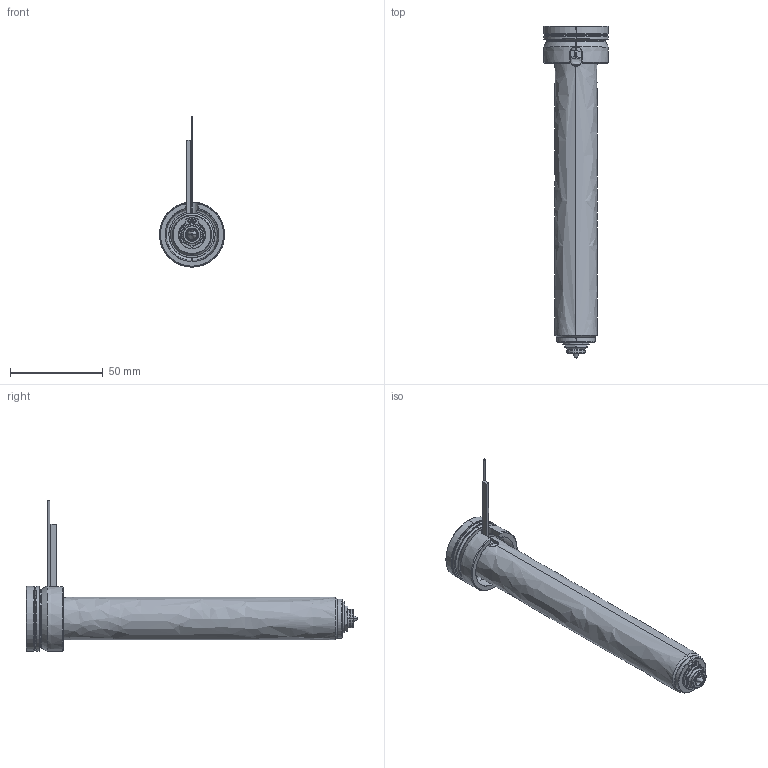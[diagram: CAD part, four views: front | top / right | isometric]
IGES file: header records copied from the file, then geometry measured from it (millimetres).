
Start section: SolidWorks IGES file using analytic representation for surfaces
Global section: file name: C:\Documents and Settings\ws-20\Desktop\TEM\UGEP3054-S-A-0 [Øf-1.10 ØC-6.0].IGS; native system: SolidWorks 2012; preprocessor: SolidWorks 2012; author: ws-20; date: 120402.112549; units: millimetre
Bounding box: 35 x 178.8 x 80.9 mm (x, y, z)
Surface area: 26140.2 mm2 (no closed solid volume)
Topology: 0 solids, 0 shells, 136 faces, 2120 edges, 2120 vertices
Faces by surface type: revolution 83, bspline 53
